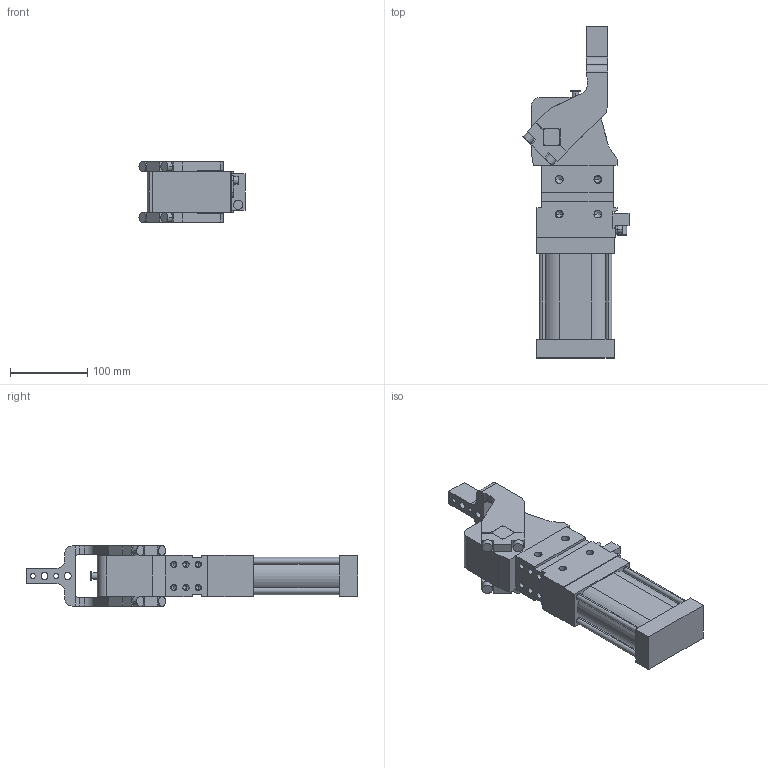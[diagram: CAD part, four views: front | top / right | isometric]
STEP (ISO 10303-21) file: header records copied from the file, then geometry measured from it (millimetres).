
FILE_DESCRIPTION (( 'STEP AP214' ), '1' );
FILE_NAME ('cpl63h3csi1g_75.STEP', '2023-01-26T10:47:03', ( '' ), ( '' ), 'SwSTEP 2.0', 'SolidWorks 2022', '' );
FILE_SCHEMA (( 'AUTOMOTIVE_DESIGN' ));
Length unit declared in the file: millimetre
Products named in the file (4): meccanica_cpl_63; blocchetto_VEP_0; cpl63h3csi1g_75; leva_cx_offset_45_cpl63
Assembly tree (3 placements, depth 2):
  cpl63h3csi1g_75
    meccanica_cpl_63
    blocchetto_VEP_0
    leva_cx_offset_45_cpl63
Bounding box: 137.59 x 430.5 x 79 mm (x, y, z)
Volume: 1800110.4 mm3; surface area: 192578.9 mm2
Topology: 3 solids, 3 shells, 398 faces, 1043 edges, 643 vertices
Faces by surface type: plane 200, cylinder 148, cone 50
Entity records: 13505 total; most frequent: DIRECTION 2127, CARTESIAN_POINT 2120, ORIENTED_EDGE 1994, EDGE_CURVE 997, AXIS2_PLACEMENT_3D 732, VECTOR 663, LINE 663, VERTEX_POINT 643
